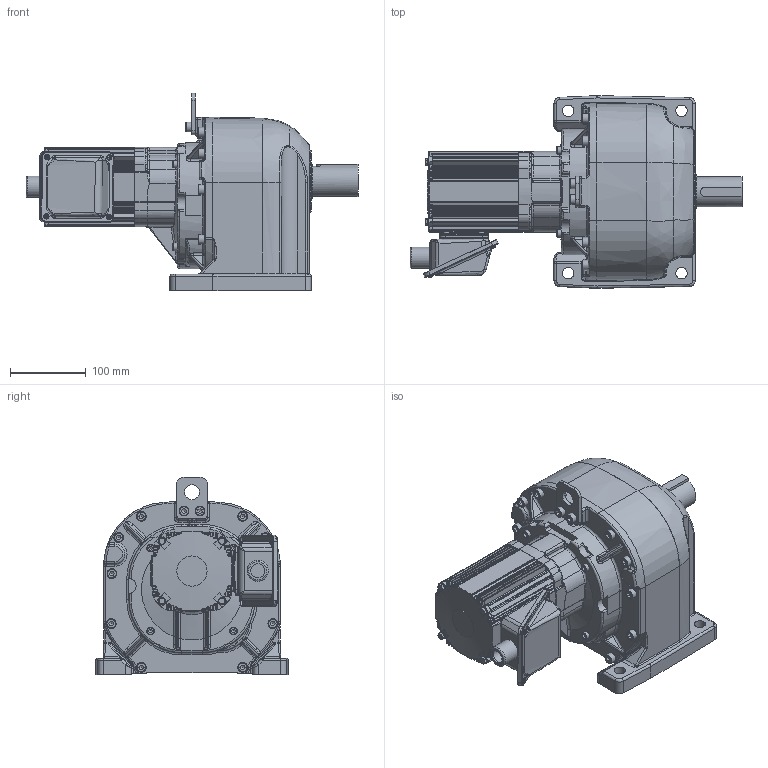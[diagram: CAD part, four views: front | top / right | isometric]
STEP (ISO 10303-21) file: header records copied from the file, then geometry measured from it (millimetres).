
FILE_DESCRIPTION( ( 'Unknown' ), '1' );
FILE_NAME( 'W:/gm/3D-WEB/GV-S/完成品/モータ+減速機/パーツデータ/完成品(GV-S_0.4kw_ブレーキ無_JM_540-900).stp', 'Unknown', ( 'Unknown' ), ( 'Unknown' ), 'PSStep 11.0', 'Unknown', ' ' );
FILE_SCHEMA( ( 'AUTOMOTIVE_DESIGN { 1 0 10303 214 1 1 1 1 }' ) );
Length unit declared in the file: millimetre
Products named in the file (2): 減速機(GV-S_脚取付0.4kw_JM_54
Bounding box: 439.57 x 255 x 262 mm (x, y, z)
Volume: 8287425.9 mm3; surface area: 671494.8 mm2
Topology: 2 solids, 43 shells, 2638 faces, 6554 edges, 4041 vertices
Faces by surface type: plane 980, cylinder 876, bspline 356, torus 288, cone 97, sphere 41
Full cylindrical faces by diameter (mm): 3.3 x4, 3.8 x4, 4 x2, 4.134 x12, 4.5 x8, 4.6 x4, 4.917 x8, 5 x4, 5.5 x4, 5.8 x4, 6 x8, 6.8 x13, 7 x8, 8 x12, 8.2 x1, 9 x10, 9.7 x4, 10 x17, 13 x12, 13.5 x2, 15 x5, 16 x1, 18.631 x2, 20 x1, 22 x1, 28 x1, 36.2 x1, 40 x2, 45 x1, 45.1 x1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
Entity records: 154039 total; most frequent: CARTESIAN_POINT 73971, DIRECTION 12369, ORIENTED_EDGE 12090, EDGE_CURVE 6045, AXIS2_PLACEMENT_3D 5036, VERTEX_POINT 3883, EDGE_LOOP 3059, FACE_OUTER_BOUND 2844
